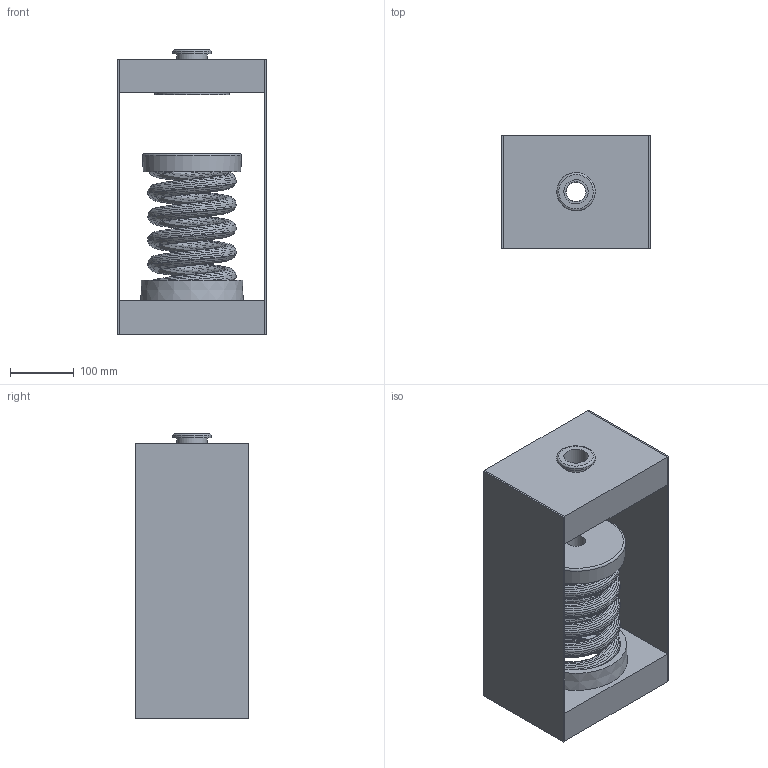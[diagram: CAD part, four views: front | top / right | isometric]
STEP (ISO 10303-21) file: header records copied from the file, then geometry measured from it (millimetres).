
FILE_DESCRIPTION(/* description */ (''),/* implementation_level */ '2;1');
FILE_NAME(/* name */ 'C:\001_Work\Designs\HANGER BOXES\30N 100 SERIES\30N-112-113\30N-112.stp',/* time_stamp */ '2015-06-01T11:37:07-04:00',/* author */ ('rramoutar'),/* organization */ ('Mason Industries Inc.'),/* preprocessor_version */ 'ST-DEVELOPER v15.2',/* originating_system */ 'Autodesk Inventor 2014',/* authorisation */ '');
FILE_SCHEMA (('AUTOMOTIVE_DESIGN { 1 0 10303 214 3 1 1 }'));
Length unit declared in the file: inch
Products named in the file (1): 30N-112
Bounding box: 234.95 x 177.8 x 446.31 mm (x, y, z)
Volume: 2462212.2 mm3; surface area: 1134166.2 mm2
Topology: 11 solids, 11 shells, 173 faces, 388 edges, 251 vertices
Faces by surface type: plane 104, cylinder 34, bspline 22, cone 11, torus 2
Full cylindrical faces by diameter (mm): 30.162 x1, 31.75 x1, 38.1 x2, 47.625 x4, 60.325 x1, 98.425 x1, 103.188 x1, 104.775 x2, 107.95 x4, 117.475 x1, 122.237 x2, 139.7 x1, 143.669 x1, 146.05 x2
Entity records: 15110 total; most frequent: CARTESIAN_POINT 11293, ORIENTED_EDGE 712, DIRECTION 674, EDGE_CURVE 356, VERTEX_POINT 248, AXIS2_PLACEMENT_3D 246, EDGE_LOOP 234, STYLED_ITEM 184
